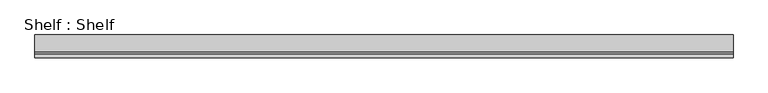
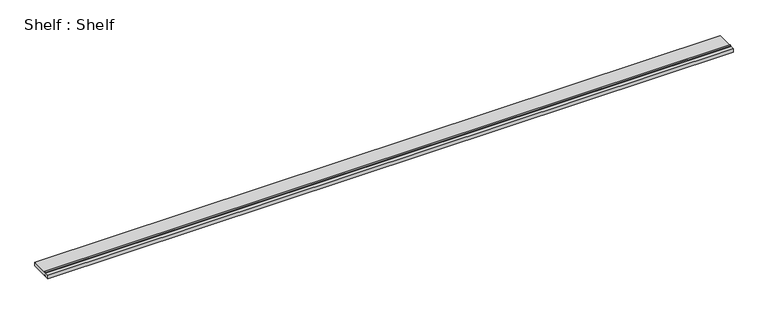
"""IFC4 building model written with IfcOpenShell, lengths in millimetres: furniture geometry, Shelf : Shelf."""

from ifc_helpers import new_model, si_unit, frame, origin, place, context, project, spatial, polyline, outline, extrude, source, transform, mapped, element, save


def shelf_shelf_7b361f3f(model_context):
    return source(origin(), model_context, "Body", "SweptSolid", [
        extrude(outline(polyline([(4.75, 1850.0), (4.75, 1900.0), (304.75, 1900.0), (304.75, 1850.0), (74.75, 1850.0), (74.75, 1865.0), (54.75, 1865.0), (54.75, 1850.0), (4.75, 1850.0)])), frame((-4465.985932, 0.0, 0.0), z_axis=(1.0, 0.0, 0.0), x_axis=(0.0, 1.0, 0.0)), (0.0, 0.0, 1.0), 9181.971864),
        extrude(outline(polyline([(4715.985932, 54.75), (-4465.985932, 54.75), (-4465.985932, 74.75), (4715.985932, 74.75), (4715.985932, 54.75)])), frame((0.0, 0.0, 1900.0), z_axis=(0.0, 0.0, 1.0), x_axis=(1.0, 0.0, 0.0)), (0.0, 0.0, 1.0), 15.0),
    ])


if __name__ == "__main__":
    model = new_model("IFC4")
    model_context = context("Model", 3, world=origin())
    ifc_project = project(units=[si_unit("LENGTHUNIT", "METRE", prefix="MILLI")], contexts=[model_context])
    site = spatial("IfcSite", under=ifc_project)
    building = spatial("IfcBuilding", under=site)
    placement = place(None, origin())
    shelf_shelf_shape = shelf_shelf_7b361f3f(model_context)
    element("IfcFurniture", 1, ObjectType="Shelf : Shelf", at=placement, inside=building, context=model_context, shape_type="MappedRepresentation", body=[
        mapped(shelf_shelf_shape, transform((0.0, 0.0, 0.0), x_axis=(1.0, 0.0, 0.0), y_axis=(0.0, 1.0, 0.0), z_axis=(0.0, 0.0, 1.0))),
    ])
    save(model, "model.ifc")
